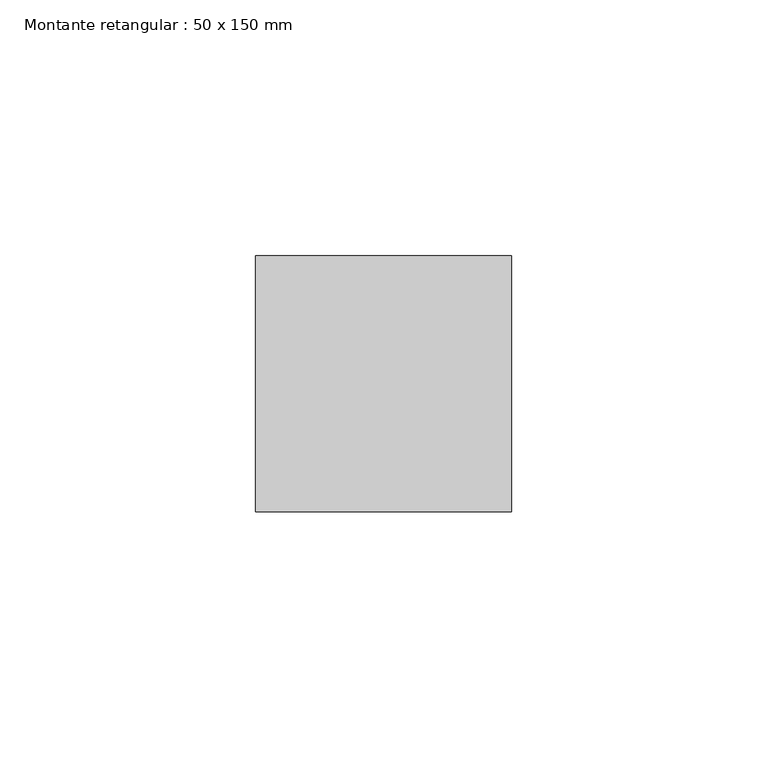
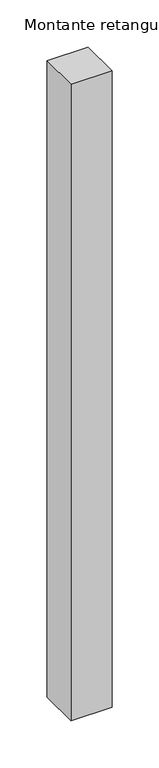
"""IFC4 building model written with IfcOpenShell, lengths in millimetres: member geometry, Montante retangular : 50 x 150 mm."""

from ifc_helpers import new_model, si_unit, frame, origin, place, context, project, spatial, polyline, outline, extrude, source, transform, mapped, element, save


def montante_retangular_50_x_150_mm_bb011900(model_context):
    return source(origin(), model_context, "Body", "SweptSolid", [
        extrude(outline(polyline([(25.0, 25.0), (25.0, -25.0), (-25.0, -25.0), (-25.0, 25.0), (25.0, 25.0)])), frame((0.0, 0.0, -820.0), z_axis=(0.0, 0.0, 1.0), x_axis=(1.0, 0.0, 0.0)), (0.0, 0.0, 1.0), 820.0),
    ])


if __name__ == "__main__":
    model = new_model("IFC4")
    model_context = context("Model", 3, world=origin())
    ifc_project = project(units=[si_unit("LENGTHUNIT", "METRE", prefix="MILLI")], contexts=[model_context])
    site = spatial("IfcSite", under=ifc_project)
    building = spatial("IfcBuilding", under=site)
    placement = place(None, origin())
    montante_retangular_50_x_150_mm_shape = montante_retangular_50_x_150_mm_bb011900(model_context)
    element("IfcMember", 1, ObjectType="Montante retangular : 50 x 150 mm", at=placement, inside=building, context=model_context, shape_type="MappedRepresentation", body=[
        mapped(montante_retangular_50_x_150_mm_shape, transform((0.0, 0.0, 0.0), x_axis=(1.0, 0.0, 0.0), y_axis=(0.0, 1.0, 0.0), z_axis=(0.0, 0.0, 1.0))),
    ])
    save(model, "model.ifc")
